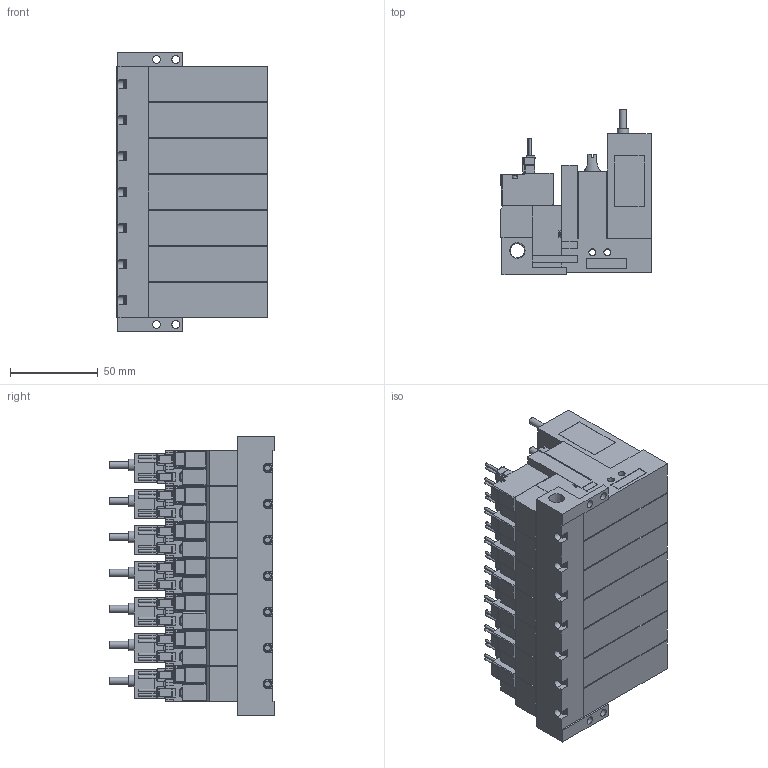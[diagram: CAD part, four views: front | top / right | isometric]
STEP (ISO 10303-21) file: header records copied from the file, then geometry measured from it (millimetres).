
FILE_DESCRIPTION(('STEP AP203'),'1');
FILE_NAME('VG_VGPL5ALR707.stp','2025-02-25T04:36:55',(' '),(' '),'Spatial InterOp 3D',' ',' ');
FILE_SCHEMA(('CONFIG_CONTROL_DESIGN'));
Length unit declared in the file: millimetre
Products named in the file (5): BMC22M※※※※VG_VGPL5ALR707; Solenoid valve A; Pressure sensor VGL; Unit L; Base MR70R
Assembly tree (22 placements, depth 2):
  BMC22M※※※※VG_VGPL5ALR707
    Solenoid valve A  x7
    Pressure sensor VGL  x7
    Unit L  x7
    Base MR70R
Bounding box: 86.6 x 94 x 159 mm (x, y, z)
Volume: 700689.8 mm3; surface area: 188128.8 mm2
Topology: 22 solids, 22 shells, 2674 faces, 7150 edges, 4723 vertices
Faces by surface type: plane 2254, cylinder 348, cone 51, torus 21
Full cylindrical faces by diameter (mm): 1.4 x28, 2.5 x21, 3 x28, 3.5 x28, 3.6 x7, 4 x42, 4.134 x7, 4.5 x4, 5.2 x7, 6 x7, 6.5 x7, 6.6 x7, 8.279 x1
Entity records: 15268 total; most frequent: CARTESIAN_POINT 2930, DIRECTION 2447, ORIENTED_EDGE 2346, EDGE_CURVE 1173, LINE 927, VECTOR 927, VERTEX_POINT 828, AXIS2_PLACEMENT_3D 760
